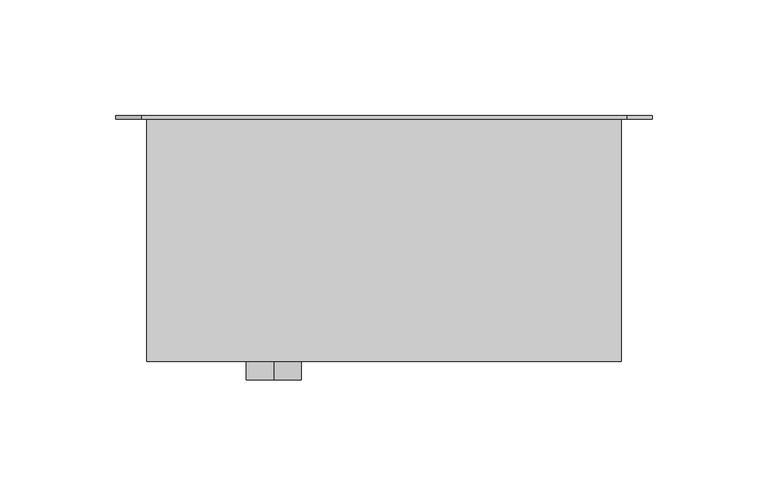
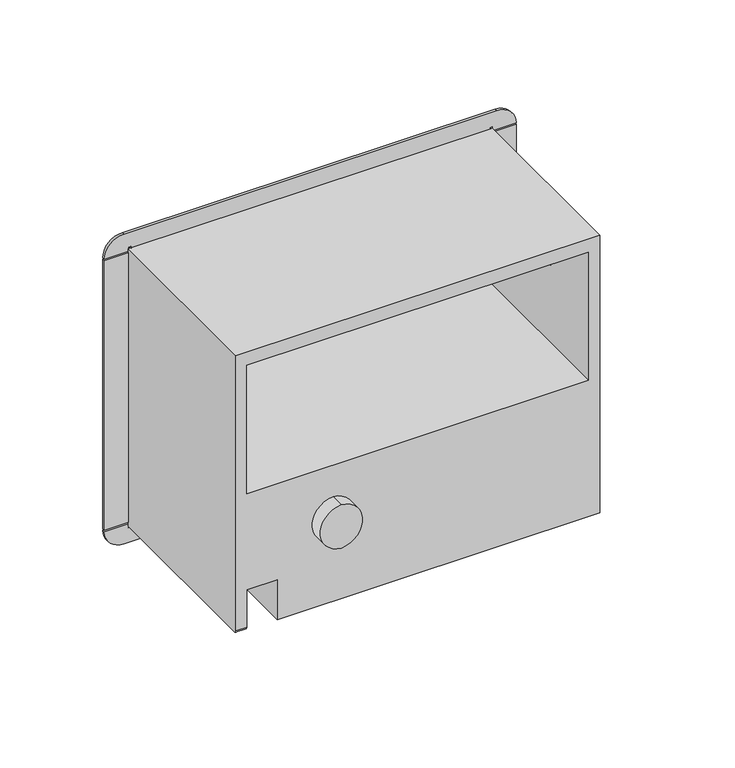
"""IFC4 building model written with IfcOpenShell, lengths in millimetres: proxy geometry, ECA INTERACT+ UT."""

from ifc_helpers import new_model, si_unit, frame, origin, place, context, project, spatial, circle_curve, source, transform, mapped, element, save
from ifc_brep_helpers import plane_surface, cylinder_surface, advanced_brep


def generic_models_4fbf6d71(model_context):
    return source(origin(), model_context, "Body", "AdvancedBrep", [
        advanced_brep(
        [(-117.4825824, 10.896219, 1.1553539), (-117.4825824, 45.821219, 1.1553539), (-117.4825824, 45.821219, 24.9678539), (-117.4825824, 9.308719, 24.9678539), (-117.4825824, 9.308719, 2.7428539), (79.5658551, 115.671219, 3.5366039), (79.5658551, 115.671219, 0.3616039), (81.1533551, 115.671219, 0.3616039), (81.1533551, 115.671219, 2.7428539), (94.6471051, 115.671219, 2.7428539), (83.5346051, 115.671219, -8.3696461), (-126.0153949, 115.671219, -8.3696461), (-137.1278949, 115.671219, 2.7428539), (-123.6341449, 115.671219, 2.7428539), (-123.6341449, 115.671219, 0.3616039), (-122.0466449, 115.671219, 0.3616039), (-122.0466449, 115.671219, 3.5366039), (-137.1278949, 115.671219, 3.5366039), (-137.1278949, 115.671219, 163.8741039), (-122.0466449, 115.671219, 163.8741039), (-122.0466449, 115.671219, 167.0491039), (-123.6341449, 115.671219, 167.0491039), (-123.6341449, 115.671219, 164.6678539), (-137.1278949, 115.671219, 164.6678539), (-126.0153949, 115.671219, 175.7803539), (83.5346051, 115.671219, 175.7803539), (94.6471051, 115.671219, 164.6678539), (81.1533551, 115.671219, 164.6678539), (81.1533551, 115.671219, 167.0491039), (79.5658551, 115.671219, 167.0491039), (79.5658551, 115.671219, 163.8741039), (94.6471051, 115.671219, 163.8741039), (94.6471051, 115.671219, 3.5366039), (74.6049176, 115.671219, 82.1178539), (74.6049176, 115.671219, 128.3537914), (44.6408551, 115.671219, 158.3178539), (-87.1216449, 115.671219, 158.3178539), (-117.4825824, 115.671219, 127.9569164), (-117.4825824, 115.671219, 82.1178539), (-100.2978949, 45.821219, 1.1553539), (-100.2978949, 9.308719, 1.1553539), (-100.2978949, 9.308719, 24.9678539), (-100.2978949, 45.821219, 24.9678539), (74.6049176, 45.821219, 128.3537914), (74.6049176, 45.821219, 158.3178539), (44.6408551, 45.821219, 158.3178539), (-117.4825824, 45.821219, 127.9569164), (-87.1216449, 45.821219, 158.3178539), (79.5658551, 114.083719, 163.8741039), (79.5658551, 114.083719, 167.0491039), (79.5658551, 114.083719, 166.2553539), (79.5658551, 114.083719, 3.5366039), (79.5658551, 114.083719, 1.1553539), (79.5658551, 114.083719, 0.3616039), (-122.0466449, 114.083719, 163.8741039), (-122.0466449, 114.083719, 166.2553539), (-122.0466449, 114.083719, 167.0491039), (-122.0466449, 114.083719, 1.1553539), (-122.0466449, 114.083719, 3.5366039), (-122.0466449, 114.083719, 0.3616039), (-117.4825824, 45.821219, 158.3178539), (81.1533551, 9.308719, 1.1553539), (81.1533551, 9.308719, 166.2553539), (-123.6341449, 9.308719, 166.2553539), (-123.6341449, 9.308719, 2.7428539), (-68.8653949, 9.308719, 37.507634), (-68.8653949, 9.308719, 63.2280737), (-117.4825824, 9.308719, 158.3178539), (74.6049176, 9.308719, 158.3178539), (74.6049176, 9.308719, 82.1178539), (-117.4825824, 9.308719, 82.1178539), (81.1533551, 114.083719, 166.2553539), (-123.6341449, 114.083719, 166.2553539), (81.1533551, 114.083719, 163.8741039), (81.1533551, 114.083719, 3.5366039), (94.6471051, 114.083719, 3.5366039), (94.6471051, 114.083719, 163.8741039), (-123.6341449, 114.083719, 3.5366039), (-123.6341449, 114.083719, 163.8741039), (-137.1278949, 114.083719, 163.8741039), (-137.1278949, 114.083719, 3.5366039), (-68.8653949, 1.371219, 63.2280737), (-68.8653949, 1.371219, 37.507634), (-123.6341449, 10.896219, 1.1553539), (-123.6341449, 114.083719, 164.6678539), (-123.6341449, 114.083719, 2.7428539), (-123.6341449, 114.083719, 1.1553539), (81.1533551, 114.083719, 1.1553539), (81.1533551, 114.083719, 2.7428539), (81.1533551, 114.083719, 164.6678539), (81.1533551, 114.083719, 0.3616039), (81.1533551, 114.083719, 1.1553539), (81.1533551, 114.083719, 2.7428539), (-123.6341449, 114.083719, 2.7428539), (-123.6341449, 114.083719, 1.1553539), (-123.6341449, 114.083719, 0.3616039), (-137.1278949, 114.083719, 2.7428539), (94.6471051, 114.083719, 2.7428539), (83.5346051, 114.083719, -8.3696461), (-126.0153949, 114.083719, -8.3696461), (81.1533551, 114.083719, 164.6678539), (81.1533551, 114.083719, 166.2553539), (81.1533551, 114.083719, 167.0491039), (-123.6341449, 114.083719, 167.0491039), (-123.6341449, 114.083719, 166.2553539), (-123.6341449, 114.083719, 164.6678539), (94.6471051, 114.083719, 164.6678539), (83.5346051, 114.083719, 175.7803539), (-126.0153949, 114.083719, 175.7803539), (-137.1278949, 114.083719, 164.6678539)],
        [
            (0, 1),
            (1, 2),
            (2, 3),
            (3, 4),
            (4, 0, circle_curve(frame((-117.4825824, 10.896219, 2.7428539), z_axis=(1.0, 0.0, 0.0), x_axis=(0.0, -0.7071067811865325, -0.7071067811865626)), 1.5875)),
            (5, 6),
            (6, 7),
            (7, 8),
            (8, 9),
            (9, 10, circle_curve(frame((83.5346051, 115.671219, 2.7428539), z_axis=(0.0, 1.0, 0.0), x_axis=(1.0, 0.0, 0.0)), 11.1125)),
            (10, 11),
            (11, 12, circle_curve(frame((-126.0153949, 115.671219, 2.7428539), z_axis=(0.0, 1.0, 0.0), x_axis=(0.0, 0.0, -1.0)), 11.1125)),
            (12, 13),
            (13, 14),
            (14, 15),
            (15, 16),
            (16, 17),
            (17, 18),
            (18, 19),
            (19, 20),
            (20, 21),
            (21, 22),
            (22, 23),
            (23, 24, circle_curve(frame((-126.0153949, 115.671219, 164.6678539), z_axis=(0.0, 1.0, 0.0), x_axis=(-1.0, 0.0, 0.0)), 11.1125)),
            (24, 25),
            (25, 26, circle_curve(frame((83.5346051, 115.671219, 164.6678539), z_axis=(0.0, 1.0, 0.0), x_axis=(0.0, 0.0, 1.0)), 11.1125)),
            (26, 27),
            (27, 28),
            (28, 29),
            (29, 30),
            (30, 31),
            (31, 32),
            (32, 5),
            (33, 34),
            (34, 35),
            (35, 36),
            (36, 37),
            (37, 38),
            (38, 33),
            (39, 40),
            (40, 41),
            (41, 42),
            (42, 39),
            (43, 44),
            (44, 45),
            (45, 43),
            (45, 35),
            (34, 43),
            (2, 42),
            (41, 3),
            (46, 37),
            (36, 47),
            (47, 46),
            (48, 30),
            (29, 49),
            (49, 50),
            (50, 48),
            (51, 52),
            (52, 53),
            (53, 6),
            (5, 51),
            (1, 39),
            (19, 54),
            (54, 55),
            (55, 56),
            (56, 20),
            (57, 58),
            (58, 16),
            (15, 59),
            (59, 57),
            (47, 60),
            (60, 46),
            (40, 61),
            (61, 62),
            (62, 63),
            (63, 64),
            (64, 4),
            (65, 66, circle_curve(frame((-67.8732074, 9.308719, 50.3678539), z_axis=(0.0, 1.0, 0.0), x_axis=(-0.5076923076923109, 0.0, 0.8615384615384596)), 12.8984375)),
            (66, 65, circle_curve(frame((-69.8575824, 9.308719, 50.3678539), z_axis=(0.0, 1.0, 0.0), x_axis=(0.5076923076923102, 0.0, -0.86153846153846)), 12.8984375)),
            (67, 68),
            (68, 69),
            (69, 70),
            (70, 67),
            (62, 71),
            (71, 50),
            (50, 55),
            (55, 72),
            (72, 63),
            (73, 74),
            (74, 75),
            (75, 76),
            (76, 73),
            (77, 78),
            (78, 79),
            (79, 80),
            (80, 77),
            (38, 70),
            (69, 33),
            (68, 44),
            (60, 67),
            (81, 82, circle_curve(frame((-67.8732074, 1.371219, 50.3678539), z_axis=(0.0, -1.0, 0.0), x_axis=(-0.5076923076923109, 0.0, 0.8615384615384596)), 12.8984375)),
            (82, 81, circle_curve(frame((-69.8575824, 1.371219, 50.3678539), z_axis=(0.0, -1.0, 0.0), x_axis=(0.5076923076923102, 0.0, -0.86153846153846)), 12.8984375)),
            (81, 66),
            (65, 82),
            (58, 77),
            (80, 17),
            (48, 73),
            (76, 31),
            (64, 83, circle_curve(frame((-123.6341449, 10.896219, 2.7428539), z_axis=(1.0, 0.0, 0.0), x_axis=(0.0, -0.7071067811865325, -0.7071067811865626)), 1.5875)),
            (83, 0),
            (72, 84),
            (84, 78),
            (77, 85),
            (85, 86),
            (86, 83),
            (86, 57),
            (57, 52),
            (52, 87),
            (87, 61),
            (87, 88),
            (88, 74),
            (73, 89),
            (89, 71),
            (51, 74),
            (75, 32),
            (7, 90),
            (90, 91),
            (91, 92),
            (92, 8),
            (53, 90),
            (13, 93),
            (93, 94),
            (94, 95),
            (95, 14),
            (95, 59),
            (12, 96),
            (96, 93),
            (92, 97),
            (97, 9),
            (97, 98, circle_curve(frame((83.5346051, 114.083719, 2.7428539), z_axis=(0.0, 1.0, 0.0), x_axis=(1.0, 0.0, 0.0)), 11.1125)),
            (98, 10),
            (96, 99, circle_curve(frame((-126.0153949, 114.083719, 2.7428539), z_axis=(0.0, -1.0, 0.0), x_axis=(0.0, 0.0, -1.0)), 11.1125)),
            (99, 98),
            (99, 11),
            (18, 79),
            (78, 54),
            (27, 100),
            (100, 101),
            (101, 102),
            (102, 28),
            (102, 49),
            (21, 103),
            (103, 104),
            (104, 105),
            (105, 22),
            (56, 103),
            (100, 106),
            (106, 107, circle_curve(frame((83.5346051, 114.083719, 164.6678539), z_axis=(0.0, -1.0, 0.0), x_axis=(0.0, 0.0, 1.0)), 11.1125)),
            (107, 108),
            (108, 109, circle_curve(frame((-126.0153949, 114.083719, 164.6678539), z_axis=(0.0, -1.0, 0.0), x_axis=(-1.0, 0.0, 0.0)), 11.1125)),
            (109, 105),
            (26, 106),
            (109, 23),
            (108, 24),
            (107, 25),
        ],
        [
            plane_surface(frame((-117.4825824, 9.308719, 82.5147289), z_axis=(1.0, 0.0, 0.0), x_axis=(0.0, 0.0, 1.0))),
            plane_surface(frame((-21.2403949, 115.671219, 83.7053539), z_axis=(0.0, 1.0, 0.0), x_axis=(0.0, 0.0, 1.0))),
            plane_surface(frame((-100.2978949, 9.308719, 1.1553539), z_axis=(-1.0, 0.0, 0.0), x_axis=(0.0, 1.0, 0.0))),
            plane_surface(frame((-100.2978949, 45.821219, 1.1553539), z_axis=(0.0, -1.0, 0.0), x_axis=(-1.0, 0.0, 0.0))),
            plane_surface(frame((43.0533551, 23.596219, 159.9053539), z_axis=(-0.7071067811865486, 0.0, -0.7071067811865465), x_axis=(-0.7071067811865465, 0.0, 0.7071067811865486))),
            plane_surface(frame((-111.1722699, 27.564969, 24.9678539), z_axis=(0.0, 0.0, -1.0), x_axis=(1.0, 0.0, 0.0))),
            plane_surface(frame((-85.5341449, 9.308719, 159.9053539), z_axis=(0.7071067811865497, 0.0, -0.7071067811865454), x_axis=(-0.7071067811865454, 0.0, -0.7071067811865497))),
            plane_surface(frame((79.5658551, 114.083719, 1.1553539), z_axis=(1.0, 0.0, 0.0), x_axis=(0.0, 0.0, 1.0))),
            plane_surface(frame((-122.0466449, 114.083719, 2.7428539), z_axis=(-1.0, 0.0, 0.0), x_axis=(0.0, 0.0, -1.0))),
            plane_surface(frame((-21.2403949, 9.308719, 165.4616039), z_axis=(0.0, -1.0, 0.0), x_axis=(0.0, 0.0, -1.0))),
            plane_surface(frame((79.5658551, 114.083719, 166.2553539), z_axis=(0.0, 0.0, 1.0), x_axis=(-1.0, 0.0, 0.0))),
            plane_surface(frame((-21.2403949, 114.083719, 83.7053539), z_axis=(0.0, -1.0, 0.0), x_axis=(0.0, 0.0, 1.0))),
            plane_surface(frame((74.2080426, 9.308719, 82.1178539), z_axis=(0.0, 0.0, 1.0), x_axis=(-1.0, 0.0, 0.0))),
            plane_surface(frame((74.6049176, 9.308719, 158.3178539), z_axis=(-1.0, 0.0, 0.0), x_axis=(0.0, 0.0, -1.0))),
            plane_surface(frame((-68.8653949, 1.371219, 50.3678539), z_axis=(0.0, -1.0, 0.0), x_axis=(0.0, 0.0, -1.0))),
            cylinder_surface(frame((-67.8732074, 9.308719, 50.3678539), z_axis=(0.0, -1.0, 0.0), x_axis=(-0.5076923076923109, 0.0, 0.8615384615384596)), 12.8984375),
            cylinder_surface(frame((-69.8575824, 9.308719, 50.3678539), z_axis=(0.0, -1.0, 0.0), x_axis=(0.5076923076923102, 0.0, -0.86153846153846)), 12.8984375),
            plane_surface(frame((79.5658551, 114.083719, 3.5366039), z_axis=(0.0, 0.0, -1.0), x_axis=(1.0, 0.0, 0.0))),
            plane_surface(frame((94.6471051, 114.083719, 163.8741039), z_axis=(0.0, 0.0, 1.0), x_axis=(-1.0, 0.0, 0.0))),
            cylinder_surface(frame((-72.4372699, 10.896219, 2.7428539), z_axis=(1.0, 0.0, 0.0), x_axis=(0.0, -0.7071067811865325, -0.7071067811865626)), 1.5875),
            plane_surface(frame((-123.6341449, 114.083719, 166.2553539), z_axis=(-1.0, 0.0, 0.0), x_axis=(0.0, 0.0, -1.0))),
            plane_surface(frame((-123.6341449, 114.083719, 1.1553539), z_axis=(0.0, 0.0, -1.0), x_axis=(1.0, 0.0, 0.0))),
            plane_surface(frame((81.1533551, 114.083719, 1.1553539), z_axis=(1.0, 0.0, 0.0), x_axis=(0.0, 0.0, 1.0))),
            plane_surface(frame((-117.0857074, 9.308719, 158.3178539), z_axis=(0.0, 0.0, -1.0), x_axis=(1.0, 0.0, 0.0))),
            plane_surface(frame((80.3596051, 114.083719, 83.7053539), z_axis=(0.0, 1.0, 0.0), x_axis=(0.0, 0.0, -1.0))),
            plane_surface(frame((94.6471051, 114.083719, 164.6678539), z_axis=(1.0, 0.0, 0.0), x_axis=(0.0, 0.0, -1.0))),
            plane_surface(frame((81.1533551, 115.671219, 0.3616039), z_axis=(-1.0, 0.0, 0.0), x_axis=(0.0, 0.0, 1.0))),
            plane_surface(frame((79.5658551, 115.671219, 0.3616039), z_axis=(0.0, 0.0, 1.0), x_axis=(1.0, 0.0, 0.0))),
            plane_surface(frame((-123.6341449, 115.671219, 2.7428539), z_axis=(1.0, 0.0, 0.0), x_axis=(0.0, 0.0, -1.0))),
            plane_surface(frame((-123.6341449, 115.671219, 0.3616039), z_axis=(0.0, 0.0, 1.0), x_axis=(1.0, 0.0, 0.0))),
            plane_surface(frame((79.5658551, 114.083719, 2.7428539), z_axis=(0.0, 0.0, 1.0), x_axis=(-1.0, 0.0, 0.0))),
            cylinder_surface(frame((83.5346051, 114.083719, 2.7428539), z_axis=(0.0, 1.0, 0.0), x_axis=(1.0, 0.0, 0.0)), 11.1125),
            plane_surface(frame((83.5346051, 114.083719, -8.3696461), z_axis=(0.0, 0.0, -1.0), x_axis=(-1.0, 0.0, 0.0))),
            cylinder_surface(frame((-126.0153949, 114.083719, 2.7428539), z_axis=(0.0, 1.0, 0.0), x_axis=(0.0, 0.0, -1.0)), 11.1125),
            plane_surface(frame((-137.1278949, 114.083719, 2.7428539), z_axis=(-1.0, 0.0, 0.0), x_axis=(0.0, 0.0, 1.0))),
            plane_surface(frame((81.1533551, 115.671219, 164.6678539), z_axis=(-1.0, 0.0, 0.0), x_axis=(0.0, 0.0, 1.0))),
            plane_surface(frame((81.1533551, 115.671219, 167.0491039), z_axis=(0.0, 0.0, -1.0), x_axis=(-1.0, 0.0, 0.0))),
            plane_surface(frame((-123.6341449, 115.671219, 167.0491039), z_axis=(1.0, 0.0, 0.0), x_axis=(0.0, 0.0, -1.0))),
            plane_surface(frame((-122.0466449, 115.671219, 167.0491039), z_axis=(0.0, 0.0, -1.0), x_axis=(-1.0, 0.0, 0.0))),
            plane_surface(frame((-122.0466449, 114.083719, 164.6678539), z_axis=(0.0, 0.0, -1.0), x_axis=(1.0, 0.0, 0.0))),
            cylinder_surface(frame((-126.0153949, 114.083719, 164.6678539), z_axis=(0.0, 1.0, 0.0), x_axis=(-1.0, 0.0, 0.0)), 11.1125),
            plane_surface(frame((-126.0153949, 114.083719, 175.7803539), z_axis=(0.0, 0.0, 1.0), x_axis=(1.0, 0.0, 0.0))),
            cylinder_surface(frame((83.5346051, 114.083719, 164.6678539), z_axis=(0.0, 1.0, 0.0), x_axis=(0.0, 0.0, 1.0)), 11.1125),
        ],
        [
            (0, [[1, 2, 3, 4, 5]]),
            (1, [[6, 7, 8, 9, 10, 11, 12, 13, 14, 15, 16, 17, 18, 19, 20, 21, 22, 23, 24, 25, 26, 27, 28, 29, 30, 31, 32, 33], [34, 35, 36, 37, 38, 39]]),
            (2, [[40, 41, 42, 43]]),
            (3, [[44, 45, 46]]),
            (4, [[-46, 47, -35, 48]]),
            (5, [[-3, 49, -42, 50]]),
            (6, [[51, -37, 52, 53]]),
            (7, [[54, -30, 55, 56, 57]]),
            (7, [[58, 59, 60, -6, 61]]),
            (3, [[-2, 62, -43, -49]]),
            (8, [[63, 64, 65, 66, -20]]),
            (8, [[67, 68, -16, 69, 70]]),
            (3, [[71, 72, -53]]),
            (9, [[-4, -50, -41, 73, 74, 75, 76, 77], [78, 79], [80, 81, 82, 83]]),
            (10, [[-75, 84, 85, 86, 87, 88]]),
            (11, [[89, 90, 91, 92]]),
            (11, [[93, 94, 95, 96]]),
            (12, [[97, -82, 98, -39]]),
            (13, [[-98, -81, 99, -44, -48, -34]]),
            (0, [[-83, -97, -38, -51, -72, 100]]),
            (14, [[101, 102]]),
            (15, [[-101, 103, -78, 104]]),
            (16, [[-104, -79, -103, -102]]),
            (17, [[-68, 105, -96, 106, -17]]),
            (18, [[-54, 107, -92, 108, -31]]),
            (19, [[-5, -77, 109, 110]]),
            (20, [[-109, -76, -88, 111, 112, -93, 113, 114, 115]]),
            (21, [[-1, -110, -115, 116, 117, 118, 119, -73, -40, -62]]),
            (22, [[-84, -74, -119, 120, 121, -89, 122, 123]]),
            (23, [[-80, -100, -71, -52, -36, -47, -45, -99]]),
            (24, [[-122, -107, -57, -85, -123]]),
            (24, [[-58, 124, -121, -120, -118]]),
            (25, [[-108, -91, 125, -32]]),
            (17, [[-61, -33, -125, -90, -124]]),
            (26, [[-8, 126, 127, 128, 129]]),
            (27, [[-7, -60, 130, -126]]),
            (28, [[-14, 131, 132, 133, 134]]),
            (29, [[-15, -134, 135, -69]]),
            (30, [[-131, -13, 136, 137]]),
            (30, [[-129, 138, 139, -9]]),
            (31, [[140, 141, -10, -139]]),
            (11, [[-59, -117, -70, -135, -133, -132, -137, 142, 143, -140, -138, -128, -127, -130]]),
            (32, [[-143, 144, -11, -141]]),
            (33, [[-142, -136, -12, -144]]),
            (18, [[-63, -19, 145, -94, 146]]),
            (24, [[-64, -146, -112, -111, -87]]),
            (24, [[-113, -105, -67, -116, -114]]),
            (34, [[-145, -18, -106, -95]]),
            (35, [[-28, 147, 148, 149, 150]]),
            (36, [[-29, -150, 151, -55]]),
            (37, [[-22, 152, 153, 154, 155]]),
            (38, [[-21, -66, 156, -152]]),
            (11, [[-56, -151, -149, -148, 157, 158, 159, 160, 161, -154, -153, -156, -65, -86]]),
            (39, [[-147, -27, 162, -157]]),
            (39, [[-155, -161, 163, -23]]),
            (40, [[-160, 164, -24, -163]]),
            (41, [[-159, 165, -25, -164]]),
            (42, [[-158, -162, -26, -165]]),
        ],
    ),
    ])


if __name__ == "__main__":
    model = new_model("IFC4")
    model_context = context("Model", 3, world=origin())
    ifc_project = project(units=[si_unit("LENGTHUNIT", "METRE", prefix="MILLI")], contexts=[model_context])
    site = spatial("IfcSite", under=ifc_project)
    building = spatial("IfcBuilding", under=site)
    placement = place(None, origin())
    generic_models_shape = generic_models_4fbf6d71(model_context)
    element("IfcBuildingElementProxy", 1, Name="ECA INTERACT+ UT", ObjectType="ECA INTERACT+ UT", at=placement, inside=building, context=model_context, shape_type="MappedRepresentation", body=[
        mapped(generic_models_shape, transform((0.0, 0.0, 0.0), x_axis=(1.0, 0.0, 0.0), y_axis=(0.0, 1.0, 0.0), z_axis=(0.0, 0.0, 1.0))),
    ])
    save(model, "model.ifc")
